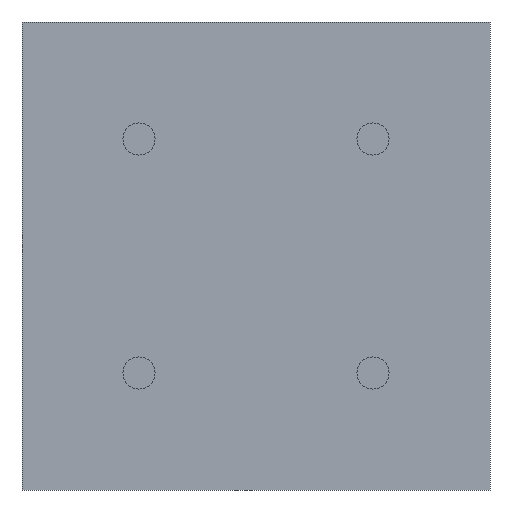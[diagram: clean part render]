
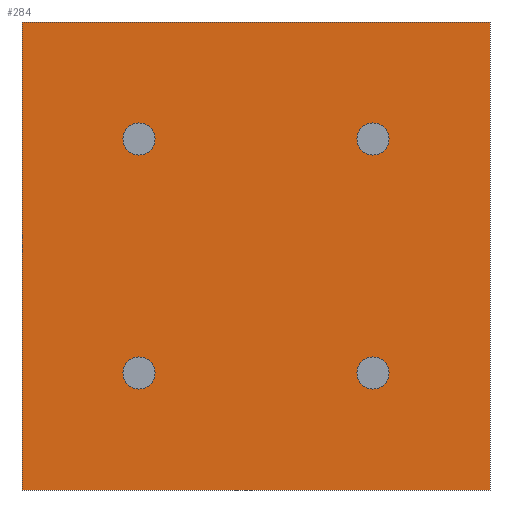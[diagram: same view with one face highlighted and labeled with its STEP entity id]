
A CAD part, front view. The second image highlights one B-rep face of the part: STEP entity #284.
In plain terms, the highlighted planar face has unit normal (0, -1, 0).
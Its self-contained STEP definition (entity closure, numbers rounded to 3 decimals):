
#1=CARTESIAN_POINT('',(22.5,0.,22.5));
#2=DIRECTION('',(0.,1.,0.));
#3=DIRECTION('',(-1.,0.,0.));
#4=AXIS2_PLACEMENT_3D('',#1,#2,#3);
#6=CARTESIAN_POINT('',(22.5,0.,22.5));
#7=DIRECTION('',(0.,1.,0.));
#8=DIRECTION('',(1.,0.,0.));
#9=AXIS2_PLACEMENT_3D('',#6,#7,#8);
#11=CARTESIAN_POINT('',(-22.5,0.,22.5));
#12=DIRECTION('',(0.,-1.,0.));
#13=DIRECTION('',(1.,0.,0.));
#14=AXIS2_PLACEMENT_3D('',#11,#12,#13);
#16=CARTESIAN_POINT('',(-22.5,0.,22.5));
#17=DIRECTION('',(0.,-1.,0.));
#18=DIRECTION('',(-1.,0.,0.));
#19=AXIS2_PLACEMENT_3D('',#16,#17,#18);
#21=CARTESIAN_POINT('',(-22.5,0.,-22.5));
#22=DIRECTION('',(0.,1.,0.));
#23=DIRECTION('',(1.,0.,0.));
#24=AXIS2_PLACEMENT_3D('',#21,#22,#23);
#26=CARTESIAN_POINT('',(-22.5,0.,-22.5));
#27=DIRECTION('',(0.,1.,0.));
#28=DIRECTION('',(-1.,0.,0.));
#29=AXIS2_PLACEMENT_3D('',#26,#27,#28);
#31=CARTESIAN_POINT('',(22.5,0.,-22.5));
#32=DIRECTION('',(0.,-1.,0.));
#33=DIRECTION('',(-1.,0.,0.));
#34=AXIS2_PLACEMENT_3D('',#31,#32,#33);
#36=CARTESIAN_POINT('',(22.5,0.,-22.5));
#37=DIRECTION('',(0.,-1.,0.));
#38=DIRECTION('',(1.,0.,0.));
#39=AXIS2_PLACEMENT_3D('',#36,#37,#38);
#130=CARTESIAN_POINT('',(-45.,0.,45.));
#132=DIRECTION('',(0.,0.,-1.));
#133=VECTOR('',#132,90.);
#134=CARTESIAN_POINT('',(-45.,0.,45.));
#135=LINE('',#134,#133);
#149=CARTESIAN_POINT('',(-45.,0.,-45.));
#151=DIRECTION('',(0.,0.,1.));
#152=VECTOR('',#151,90.);
#153=CARTESIAN_POINT('',(45.,0.,-45.));
#154=LINE('',#153,#152);
#168=CARTESIAN_POINT('',(45.,0.,45.));
#187=CARTESIAN_POINT('',(45.,0.,-45.));
#193=DIRECTION('',(1.,0.,0.));
#194=VECTOR('',#193,90.);
#195=CARTESIAN_POINT('',(-45.,0.,45.));
#196=LINE('',#195,#194);
#201=DIRECTION('',(1.,0.,0.));
#202=VECTOR('',#201,90.);
#203=CARTESIAN_POINT('',(-45.,0.,-45.));
#204=LINE('',#203,#202);
#206=VERTEX_POINT('',#187);
#211=CARTESIAN_POINT('',(19.4,0.,-22.5));
#212=CARTESIAN_POINT('',(25.6,0.,-22.5));
#213=VERTEX_POINT('',#211);
#214=VERTEX_POINT('',#212);
#216=VERTEX_POINT('',#149);
#221=CARTESIAN_POINT('',(-19.4,0.,-22.5));
#222=CARTESIAN_POINT('',(-25.6,0.,-22.5));
#223=VERTEX_POINT('',#221);
#224=VERTEX_POINT('',#222);
#226=VERTEX_POINT('',#168);
#231=CARTESIAN_POINT('',(19.4,0.,22.5));
#232=CARTESIAN_POINT('',(25.6,0.,22.5));
#233=VERTEX_POINT('',#231);
#234=VERTEX_POINT('',#232);
#236=VERTEX_POINT('',#130);
#241=CARTESIAN_POINT('',(-19.4,0.,22.5));
#242=CARTESIAN_POINT('',(-25.6,0.,22.5));
#243=VERTEX_POINT('',#241);
#244=VERTEX_POINT('',#242);
#245=CARTESIAN_POINT('',(0.,0.,0.));
#246=DIRECTION('',(0.,1.,0.));
#247=DIRECTION('',(1.,0.,0.));
#248=AXIS2_PLACEMENT_3D('',#245,#246,#247);
#249=PLANE('',#248);
#251=ORIENTED_EDGE('',*,*,#250,.F.);
#253=ORIENTED_EDGE('',*,*,#252,.T.);
#255=ORIENTED_EDGE('',*,*,#254,.F.);
#257=ORIENTED_EDGE('',*,*,#256,.F.);
#258=EDGE_LOOP('',(#251,#253,#255,#257));
#259=FACE_OUTER_BOUND('',#258,.F.);
#261=ORIENTED_EDGE('',*,*,#260,.F.);
#263=ORIENTED_EDGE('',*,*,#262,.F.);
#264=EDGE_LOOP('',(#261,#263));
#265=FACE_BOUND('',#264,.F.);
#267=ORIENTED_EDGE('',*,*,#266,.T.);
#269=ORIENTED_EDGE('',*,*,#268,.T.);
#270=EDGE_LOOP('',(#267,#269));
#271=FACE_BOUND('',#270,.F.);
#273=ORIENTED_EDGE('',*,*,#272,.F.);
#275=ORIENTED_EDGE('',*,*,#274,.F.);
#276=EDGE_LOOP('',(#273,#275));
#277=FACE_BOUND('',#276,.F.);
#279=ORIENTED_EDGE('',*,*,#278,.T.);
#281=ORIENTED_EDGE('',*,*,#280,.T.);
#282=EDGE_LOOP('',(#279,#281));
#283=FACE_BOUND('',#282,.F.);
#284=ADVANCED_FACE('',(#259,#265,#271,#277,#283),#249,.F.);
#5=CIRCLE('',#4,3.1);
#10=CIRCLE('',#9,3.1);
#15=CIRCLE('',#14,3.1);
#20=CIRCLE('',#19,3.1);
#25=CIRCLE('',#24,3.1);
#30=CIRCLE('',#29,3.1);
#35=CIRCLE('',#34,3.1);
#40=CIRCLE('',#39,3.1);
#250=EDGE_CURVE('',#236,#216,#135,.T.);
#252=EDGE_CURVE('',#236,#226,#196,.T.);
#254=EDGE_CURVE('',#206,#226,#154,.T.);
#256=EDGE_CURVE('',#216,#206,#204,.T.);
#260=EDGE_CURVE('',#233,#234,#5,.T.);
#262=EDGE_CURVE('',#234,#233,#10,.T.);
#266=EDGE_CURVE('',#243,#244,#15,.T.);
#268=EDGE_CURVE('',#244,#243,#20,.T.);
#272=EDGE_CURVE('',#223,#224,#25,.T.);
#274=EDGE_CURVE('',#224,#223,#30,.T.);
#278=EDGE_CURVE('',#213,#214,#35,.T.);
#280=EDGE_CURVE('',#214,#213,#40,.T.);
